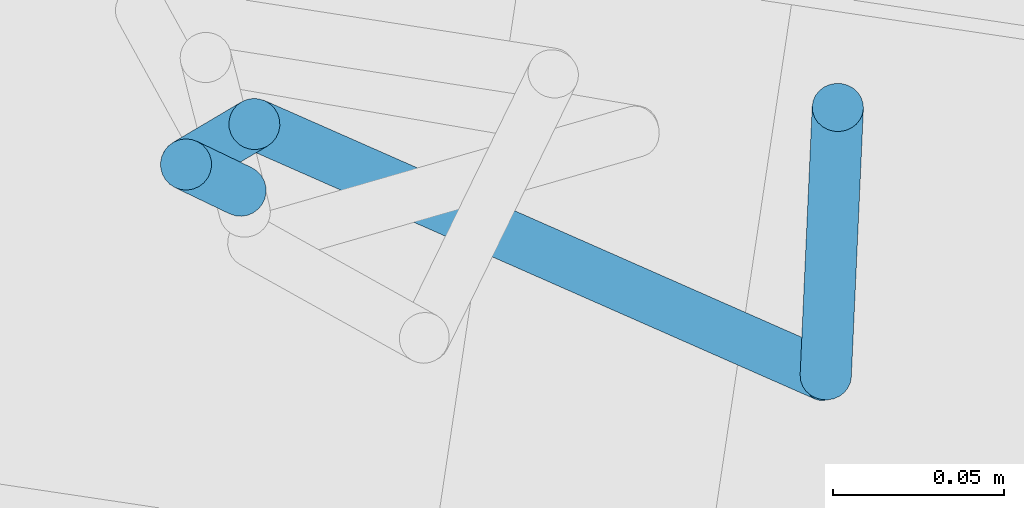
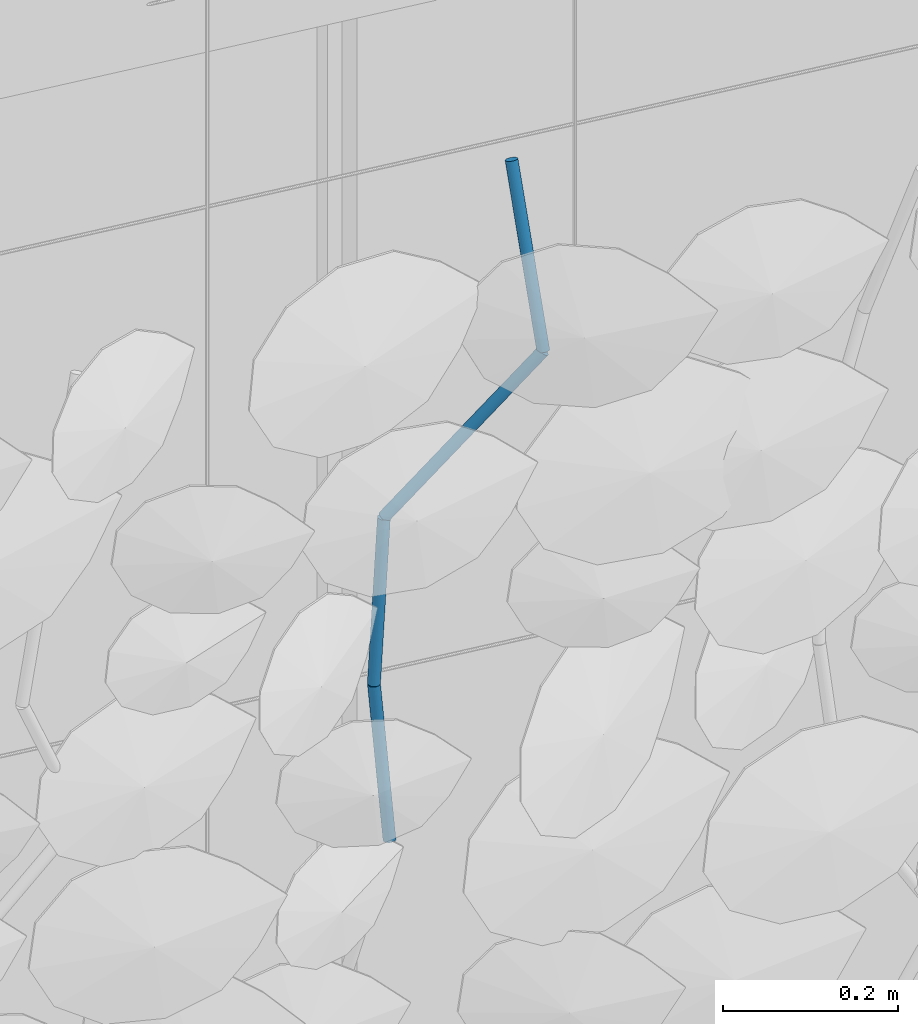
# One storey, part 114 of 131: 4 members, 1 element without a shape of its own.
"""IFC4 building model written with IfcOpenShell, lengths in metres."""

import ifcopenshell
import ifcopenshell.guid

model = None  # the IFC model being written
_history = None  # IfcOwnerHistory: only IFC2X3 demands one
_inside = {}  # id of a spatial element -> (the spatial element, [elements in it])
_under = {}  # id of a project, library or spatial element -> (it, [spatial elements below it])
_declared = {}  # id of a project -> (the project, [libraries it declares])
_typed = {}  # id of a type object -> (the type object, [elements of that type])
_made_of = {}  # id of a material, layer set ... -> (it, [elements and type objects made of it])


def new_model(schema):
    """Start an empty IFC model of exactly this schema.

    Asked for "IFC4X3", IfcOpenShell would pick the latest addendum, in which some entities
    have other attributes; the version numbers below select the first issue.
    IFC2X3 requires an IfcOwnerHistory on every rooted entity: one is made here for all.
    """
    global model, _history
    if schema == "IFC4X3":
        model = ifcopenshell.file(schema_version=(4, 3, 0, 0))
    else:
        model = ifcopenshell.file(schema=schema)
    _inside.clear()
    _under.clear()
    _declared.clear()
    _typed.clear()
    _made_of.clear()
    _history = None
    if model.schema == "IFC2X3":
        org = make("IfcOrganization", Name="unknown")
        user = make(
            "IfcPersonAndOrganization",
            ThePerson=make("IfcPerson", FamilyName="unknown"),
            TheOrganization=org,
        )
        app = make(
            "IfcApplication",
            ApplicationDeveloper=org,
            Version="unknown",
            ApplicationFullName="unknown",
            ApplicationIdentifier="unknown",
        )
        _history = make(
            "IfcOwnerHistory",
            OwningUser=user,
            OwningApplication=app,
            ChangeAction="ADDED",
            CreationDate=0,
        )
    return model


def make(cls, **values):
    """One entity of the class cls with the attributes given. An attribute that is None is left unset."""
    return model.create_entity(
        cls, **{name: value for name, value in values.items() if value is not None}
    )


def rooted(cls, **values):
    """An entity with a GlobalId (a new one), such as an element, a storey or a relation."""
    return make(cls, GlobalId=ifcopenshell.guid.new(), OwnerHistory=_history, **values)


def si_unit(unit_type, name, prefix=None):
    """IfcSIUnit, for example si_unit("LENGTHUNIT", "METRE", prefix="MILLI")."""
    return make("IfcSIUnit", UnitType=unit_type, Prefix=prefix, Name=name)


def assignment(units):
    """IfcUnitAssignment: the units of a project."""
    return None if units is None else make("IfcUnitAssignment", Units=units)


def point(xyz):
    """IfcCartesianPoint."""
    return None if xyz is None else make("IfcCartesianPoint", Coordinates=xyz)


def direction(xyz):
    """IfcDirection."""
    return None if xyz is None else make("IfcDirection", DirectionRatios=xyz)


def frame(location, z_axis=None, x_axis=None):
    """IfcAxis2Placement3D, a coordinate frame: its origin and axes. An axis left out is left unset."""
    return make(
        "IfcAxis2Placement3D",
        Location=point(location),
        Axis=direction(z_axis),
        RefDirection=direction(x_axis),
    )


def origin_with_axes():
    """The frame at (0, 0, 0) with the z axis (0, 0, 1) and the x axis (1, 0, 0) written out."""
    return frame((0.0, 0.0, 0.0), z_axis=(0.0, 0.0, 1.0), x_axis=(1.0, 0.0, 0.0))


def place(relative_to, where):
    """IfcLocalPlacement: puts the frame where relative to a parent placement (None: the world)."""
    return make(
        "IfcLocalPlacement", PlacementRelTo=relative_to, RelativePlacement=where
    )


def context(
    kind, dimensions, precision=None, world=None, true_north=None, identifier=None
):
    """IfcGeometricRepresentationContext, for example the 3D "Model" context."""
    return make(
        "IfcGeometricRepresentationContext",
        ContextIdentifier=identifier,
        ContextType=kind,
        CoordinateSpaceDimension=dimensions,
        Precision=precision,
        WorldCoordinateSystem=world,
        TrueNorth=true_north,
    )


def subcontext(parent, identifier, kind, view, scale=None):
    """IfcGeometricRepresentationSubContext, for example "Body" below "Model"."""
    return make(
        "IfcGeometricRepresentationSubContext",
        ContextIdentifier=identifier,
        ContextType=kind,
        ParentContext=parent,
        TargetScale=scale,
        TargetView=view,
    )


def project(units=None, contexts=None):
    """IfcProject with its units and contexts."""
    return rooted(
        "IfcProject",
        Name="project",
        RepresentationContexts=contexts,
        UnitsInContext=assignment(units),
    )


def spatial(cls, under=None, at=None, **own):
    """A site, building, storey or space (cls), placed at a placement, below another one or the project."""
    s = rooted(cls, ObjectPlacement=at, **own)
    if under is not None:
        _under.setdefault(under.id(), (under, []))[1].append(s)
    return s


def profile(cls, at=None, kind="AREA", **sizes):
    """A parametric profile (cls). Its sizes go by their IFC names, for example OverallWidth=200.0."""
    return make(cls, ProfileType=kind, Position=at, **sizes)


def circle(**sizes):
    """IfcCircleProfileDef."""
    return profile("IfcCircleProfileDef", **sizes)


def extrude(swept, where, along, depth):
    """IfcExtrudedAreaSolid: the profile swept, set in the frame where, extruded along a direction by depth."""
    return make(
        "IfcExtrudedAreaSolid",
        SweptArea=swept,
        Position=where,
        ExtrudedDirection=direction(along),
        Depth=depth,
    )


def shape(context_of_items, identifier, shape_type, items):
    """IfcShapeRepresentation: the items that make up one representation, for example the "Body"."""
    return make(
        "IfcShapeRepresentation",
        ContextOfItems=context_of_items,
        RepresentationIdentifier=identifier,
        RepresentationType=shape_type,
        Items=items,
    )


def material(Name=None, Category=None):
    """IfcMaterial."""
    return make("IfcMaterial", Name=Name, Category=Category)


def material_profile(
    of_material, cross_section, Name=None, Category=None, Priority=None
):
    """IfcMaterialProfile: a cross section and its material."""
    return make(
        "IfcMaterialProfile",
        Name=Name,
        Material=of_material,
        Profile=cross_section,
        Priority=Priority,
        Category=Category,
    )


def profile_set(profiles, Name=None, composite=None):
    """IfcMaterialProfileSet."""
    return make(
        "IfcMaterialProfileSet",
        Name=Name,
        MaterialProfiles=profiles,
        CompositeProfile=composite,
    )


def profile_usage(for_profile_set, cardinal=None, extent=None):
    """IfcMaterialProfileSetUsage: how a profile set lies along its element."""
    return make(
        "IfcMaterialProfileSetUsage",
        ForProfileSet=for_profile_set,
        CardinalPoint=cardinal,
        ReferenceExtent=extent,
    )


def made_of(thing, what):
    """Note that an element or type object is made of a material, layer set ...; save() writes the relation."""
    if what is not None:
        _made_of.setdefault(what.id(), (what, []))[1].append(thing)
    return thing


def type_object(cls, material=None, **own):
    """A type object (cls), such as IfcWallType, which elements share."""
    return made_of(rooted(cls, **own), material)


def element(
    cls,
    number,
    at=None,
    inside=None,
    cuts=None,
    type_object=None,
    material=None,
    context=None,
    identifier="Body",
    shape_type=None,
    held_by="IfcProductDefinitionShape",
    body=None,
    shapes=None,
    **own,
):
    """One element of the class cls, such as IfcWall. Its Tag is "e" and its number.

    at: its placement. inside: the storey or other place that contains it. cuts: it is an
    opening in that element (IfcRelVoidsElement). A single representation is given by context,
    identifier, shape_type and body (its items); several are given by shapes. held_by: the class
    of the entity that holds the representations. save() writes the other relations.
    """
    e = rooted(cls, Tag="e%d" % number, ObjectPlacement=at, **own)
    if body is not None:
        shapes = [shape(context, identifier, shape_type, body)]
    if shapes is not None:
        e.Representation = make(held_by, Representations=shapes)
    if inside is not None:
        _inside.setdefault(inside.id(), (inside, []))[1].append(e)
    if cuts is not None:
        rooted(
            "IfcRelVoidsElement", RelatingBuildingElement=cuts, RelatedOpeningElement=e
        )
    if type_object is not None:
        _typed.setdefault(type_object.id(), (type_object, []))[1].append(e)
    return made_of(e, material)


def aggregate(whole, parts):
    """IfcRelAggregates: a whole, such as a stair, and the parts it consists of."""
    return rooted("IfcRelAggregates", RelatingObject=whole, RelatedObjects=parts)


def save(model, path):
    """Write the relations noted so far, then the file.

    IfcRelAggregates (storeys below a building ...), IfcRelContainedInSpatialStructure (elements
    in a storey), IfcRelDefinesByType, IfcRelAssociatesMaterial and IfcRelDeclares: one each for
    every whole, place, type object, material and project.
    """
    for whole, parts in _under.values():
        aggregate(whole, parts)
    for where, things in _inside.values():
        rooted(
            "IfcRelContainedInSpatialStructure",
            RelatedElements=things,
            RelatingStructure=where,
        )
    for kind, things in _typed.values():
        rooted("IfcRelDefinesByType", RelatedObjects=things, RelatingType=kind)
    for what, things in _made_of.values():
        rooted("IfcRelAssociatesMaterial", RelatedObjects=things, RelatingMaterial=what)
    for by, libraries in _declared.values():
        rooted("IfcRelDeclares", RelatingContext=by, RelatedDefinitions=libraries)
    model.write(path)


model = new_model("IFC4")

# Units and contexts
model_context = context("Model", 3, precision=1e-05, world=origin_with_axes(), true_north=direction((0.0, 1.0)))
body_context = subcontext(model_context, "Body", "Model", "MODEL_VIEW")
ifc_project = project(units=[si_unit("AREAUNIT", "SQUARE_METRE"), si_unit("VOLUMEUNIT", "CUBIC_METRE"), si_unit("LENGTHUNIT", "METRE")], contexts=[model_context])

# Site, building, storey
site_placement = place(None, origin_with_axes())
site = spatial("IfcSite", under=ifc_project, at=site_placement, Name="Lares · Rua das Mercês · artigo 4771")
building_placement = place(site_placement, frame((15.0, 9.7, 14.65), z_axis=(0.0, 0.0, 1.0), x_axis=(0.989015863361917, -0.147809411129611, 0.0)))
building = spatial("IfcBuilding", under=site, at=building_placement, Name="Casa Sobreposta")
storey_placement = place(building_placement, origin_with_axes())
storey = spatial("IfcBuildingStorey", under=building, at=storey_placement, Name="00 · Habitação e estacionamento", Elevation=14.65)

# Assembly, members
assembly_placement = place(storey_placement, origin_with_axes())
assembly = element("IfcElementAssembly", 1, at=assembly_placement, inside=storey, Name="Fachada sul e pátio · estrutura e trepadeiras", ObjectType="LIVING_SHADE_TRELLIS", PredefinedType="USERDEFINED")
ifc_material = material(Name="Ramos de trepadeiras", Category="wood")
ifc_material_profile = material_profile(ifc_material, circle(Radius=0.0075))
ifc_profile_set = profile_set([ifc_material_profile], Name="D0.015")
ifc_profile_usage_1 = profile_usage(ifc_profile_set)
member_type = type_object("IfcMemberType", Name="D0.015 / vine_wood", PredefinedType="NOTDEFINED", material=ifc_profile_set)
member_1_placement = place(assembly_placement, frame((17.5916188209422, -1.68966029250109, 1.87253742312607), z_axis=(-0.0775005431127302, 0.0239215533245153, 0.99670528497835), x_axis=(0.294933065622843, 0.955517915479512, 0.0)))
member_1 = element("IfcMember", 2, at=member_1_placement, type_object=member_type, material=ifc_profile_usage_1, Name="Trepadeiras · ramo", context=body_context, shape_type="SweptSolid", body=[
    extrude(circle(Radius=0.0075), origin_with_axes(), (0.0, 0.0, 1.0), 0.218224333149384),
])
ifc_profile_usage_2 = profile_usage(ifc_profile_set)
member_2_placement = place(assembly_placement, frame((17.5747063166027, -1.68444002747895, 2.09004276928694), z_axis=(0.0824483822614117, 0.0670622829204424, 0.994336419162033), x_axis=(0.631006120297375, -0.775777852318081, 0.0)))
member_2 = element("IfcMember", 3, at=member_2_placement, type_object=member_type, material=ifc_profile_usage_2, Name="Trepadeiras · ramo", context=body_context, shape_type="SweptSolid", body=[
    extrude(circle(Radius=0.0075), origin_with_axes(), (0.0, 0.0, 1.0), 0.21874422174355),
])
ifc_profile_usage_3 = profile_usage(ifc_profile_set)
member_3_placement = place(assembly_placement, frame((17.5927414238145, -1.66977054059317, 2.30754811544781), z_axis=(0.620510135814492, -0.169558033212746, 0.76564825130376), x_axis=(-0.263591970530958, -0.964634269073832, 0.0)))
member_3 = element("IfcMember", 4, at=member_3_placement, type_object=member_type, material=ifc_profile_usage_3, Name="Trepadeiras · ramo", context=body_context, shape_type="SweptSolid", body=[
    extrude(circle(Radius=0.0075), origin_with_axes(), (0.0, 0.0, 1.0), 0.284079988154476),
])
ifc_profile_usage_4 = profile_usage(ifc_profile_set)
member_4_placement = place(assembly_placement, frame((17.7690159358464, -1.71793858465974, 2.52505346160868), z_axis=(-0.0350497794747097, 0.338152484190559, 0.940438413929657), x_axis=(0.99467115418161, 0.103098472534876, 0.0)))
member_4 = element("IfcMember", 5, at=member_4_placement, type_object=member_type, material=ifc_profile_usage_4, Name="Trepadeiras · ramo", context=body_context, shape_type="SweptSolid", body=[
    extrude(circle(Radius=0.0075), origin_with_axes(), (0.0, 0.0, 1.0), 0.231280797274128),
])
aggregate(assembly, [member_1, member_2, member_3, member_4])

save(model, "model.ifc")
